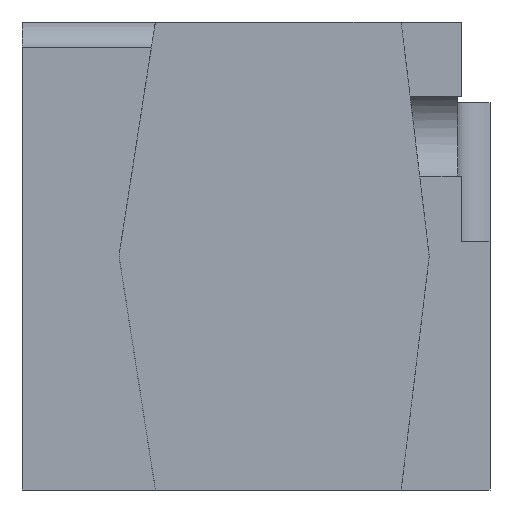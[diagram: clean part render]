
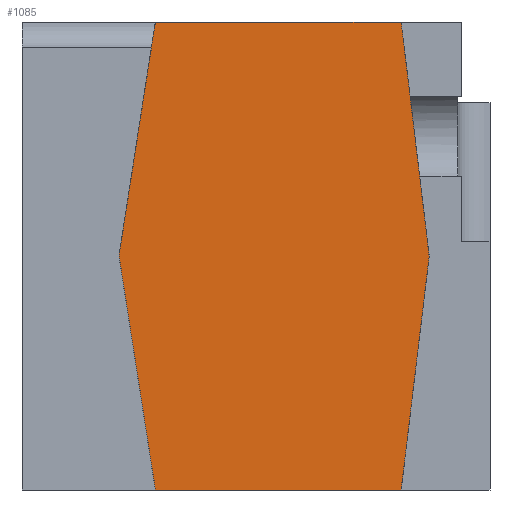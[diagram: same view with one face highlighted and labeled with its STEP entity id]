
A CAD part, left-side view. The second image highlights one B-rep face of the part: STEP entity #1085.
In plain terms, the highlighted planar face has unit normal (-1, 0, 0).
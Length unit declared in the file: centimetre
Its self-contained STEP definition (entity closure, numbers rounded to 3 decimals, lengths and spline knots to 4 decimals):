
#14 = AXIS2_PLACEMENT_3D ( 'NONE', #728, #1760, #1738 ) ;
#19 = DIRECTION ( 'NONE',  ( 0., 0.119, -0.993 ) ) ;
#21 = LINE ( 'NONE', #1670, #1268 ) ;
#28 = DIRECTION ( 'NONE',  ( 0., -0.119, -0.993 ) ) ;
#29 = CARTESIAN_POINT ( 'NONE',  ( 0., 714.9459, 1000. ) ) ;
#37 = ORIENTED_EDGE ( 'NONE', *, *, #68, .F. ) ;
#68 = EDGE_CURVE ( 'NONE', #485, #955, #1521, .T. ) ;
#129 = FACE_OUTER_BOUND ( 'NONE', #792, .T. ) ;
#164 = VERTEX_POINT ( 'NONE', #1064 ) ;
#172 = EDGE_CURVE ( 'NONE', #1360, #1705, #763, .T. ) ;
#205 = ORIENTED_EDGE ( 'NONE', *, *, #1101, .F. ) ;
#282 = ORIENTED_EDGE ( 'NONE', *, *, #1207, .F. ) ;
#391 = VECTOR ( 'NONE', #19, 100. ) ;
#441 = ORIENTED_EDGE ( 'NONE', *, *, #172, .F. ) ;
#466 = CARTESIAN_POINT ( 'NONE',  ( 0., 714.9459, 0. ) ) ;
#485 = VERTEX_POINT ( 'NONE', #1284 ) ;
#621 = DIRECTION ( 'NONE',  ( 0., 0.154, 0.988 ) ) ;
#638 = CARTESIAN_POINT ( 'NONE',  ( 0., 129.991, 500. ) ) ;
#728 = CARTESIAN_POINT ( 'NONE',  ( 0., 1000., 1000. ) ) ;
#763 = LINE ( 'NONE', #1213, #391 ) ;
#766 = CARTESIAN_POINT ( 'NONE',  ( 0., 792.7026, 500. ) ) ;
#792 = EDGE_LOOP ( 'NONE', ( #1547, #441, #806, #205, #37, #282 ) ) ;
#806 = ORIENTED_EDGE ( 'NONE', *, *, #1195, .F. ) ;
#828 = VECTOR ( 'NONE', #1833, 100. ) ;
#858 = CARTESIAN_POINT ( 'NONE',  ( 0., 1000., 1000. ) ) ;
#901 = VECTOR ( 'NONE', #1457, 100. ) ;
#955 = VERTEX_POINT ( 'NONE', #1314 ) ;
#992 = VECTOR ( 'NONE', #621, 100. ) ;
#1064 = CARTESIAN_POINT ( 'NONE',  ( 0., 189.8675, 1000. ) ) ;
#1085 = ADVANCED_FACE ( 'NONE', ( #129 ), #1750, .F. ) ;
#1101 = EDGE_CURVE ( 'NONE', #955, #164, #1594, .T. ) ;
#1136 = VERTEX_POINT ( 'NONE', #466 ) ;
#1195 = EDGE_CURVE ( 'NONE', #164, #1360, #21, .T. ) ;
#1204 = LINE ( 'NONE', #766, #992 ) ;
#1207 = EDGE_CURVE ( 'NONE', #1136, #485, #1204, .T. ) ;
#1213 = CARTESIAN_POINT ( 'NONE',  ( 0., 129.991, 500. ) ) ;
#1244 = LINE ( 'NONE', #1254, #1911 ) ;
#1254 = CARTESIAN_POINT ( 'NONE',  ( 0., 1000., 0. ) ) ;
#1268 = VECTOR ( 'NONE', #28, 100. ) ;
#1284 = CARTESIAN_POINT ( 'NONE',  ( 0., 792.7026, 500. ) ) ;
#1314 = CARTESIAN_POINT ( 'NONE',  ( 0., 714.9459, 1000. ) ) ;
#1354 = CARTESIAN_POINT ( 'NONE',  ( 0., 189.8675, 0. ) ) ;
#1360 = VERTEX_POINT ( 'NONE', #638 ) ;
#1402 = EDGE_CURVE ( 'NONE', #1136, #1705, #1244, .T. ) ;
#1457 = DIRECTION ( 'NONE',  ( 0., -1., 0. ) ) ;
#1521 = LINE ( 'NONE', #29, #828 ) ;
#1547 = ORIENTED_EDGE ( 'NONE', *, *, #1402, .T. ) ;
#1594 = LINE ( 'NONE', #858, #901 ) ;
#1670 = CARTESIAN_POINT ( 'NONE',  ( 0., 189.8675, 1000. ) ) ;
#1705 = VERTEX_POINT ( 'NONE', #1354 ) ;
#1738 = DIRECTION ( 'NONE',  ( 0., 0., -1. ) ) ;
#1750 = PLANE ( 'NONE',  #14 ) ;
#1760 = DIRECTION ( 'NONE',  ( 1., 0., 0. ) ) ;
#1833 = DIRECTION ( 'NONE',  ( 0., -0.154, 0.988 ) ) ;
#1854 = DIRECTION ( 'NONE',  ( 0., -1., 0. ) ) ;
#1911 = VECTOR ( 'NONE', #1854, 100. ) ;
